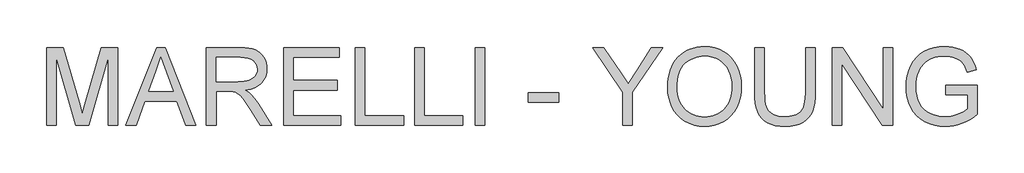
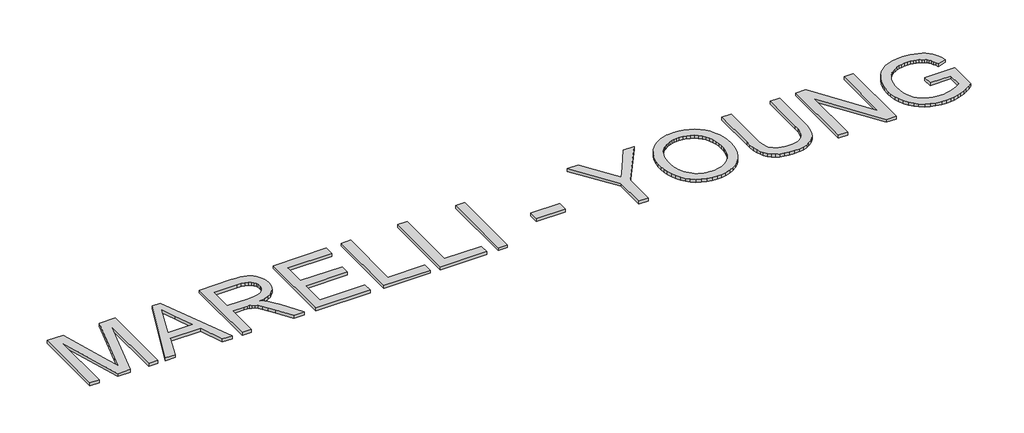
# One storey, part 26 of 26: 1 proxy.
"""IFC4 building model written with IfcOpenShell, lengths in millimetres."""

from ifc_helpers import new_model, si_unit, origin, origin_with_axes, place, context, project, spatial, polyline, outline, extrude, element, save

model = new_model("IFC4")

# Units and contexts
model_context = context("Model", 3, world=origin())
ifc_project = project(units=[si_unit("LENGTHUNIT", "METRE", prefix="MILLI")], contexts=[model_context])

# Site, building, storey
site = spatial("IfcSite", under=ifc_project)
building = spatial("IfcBuilding", under=site)
storey = spatial("IfcBuildingStorey", under=building, Name="Marelli - Linha YOUNG - Planta Baixa", Elevation=0.0)

# Proxy
placement = place(None, origin())
element("IfcBuildingElementProxy", 1, Name="1200mm Arial", ObjectType="1200mm Arial", at=placement, inside=storey, context=model_context, shape_type="SweptSolid", body=[
    extrude(outline(polyline([(1169.0588838, 33269.4336799), (1169.0588838, 34474.9094017), (1428.342114, 34474.9094017), (1674.9702036, 33625.2491457), (1724.7078493, 33447.7828712), (1778.5657734, 33639.9644255), (2021.0735847, 34474.9094017), (2280.3568149, 34474.9094017), (2280.3568149, 33269.4336799), (2129.6723496, 33269.4336799), (2129.6723496, 34324.2249365), (1826.8318912, 33269.4336799), (1622.5838075, 33269.4336799), (1319.743349, 34324.2249365), (1319.743349, 33269.4336799), (1169.0588838, 33269.4336799)])), origin_with_axes(), (0.0, 0.0, 1.0), 50.0),
    extrude(outline(polyline([(2403.6708596, 33269.4336799), (2884.8605093, 34474.9094017), (3013.1777492, 34474.9094017), (3494.3673989, 33269.4336799), (3335.1480714, 33269.4336799), (3197.1187468, 33646.144843), (2700.6252061, 33646.144843), (2562.8901872, 33269.4336799), (2403.6708596, 33269.4336799)]), holes=[polyline([(2755.9546582, 33796.8293082), (3142.0836004, 33796.8293082), (3033.4848354, 34093.1950435), (2949.0191293, 34324.2249365), (2873.9712023, 34119.093936), (2755.9546582, 33796.8293082)])]), origin_with_axes(), (0.0, 0.0, 1.0), 50.0),
    extrude(outline(polyline([(3655.35256, 33269.4336799), (3655.35256, 34474.9094017), (4174.8019372, 34474.9094017), (4249.3624206, 34472.8768537), (4314.4131544, 34466.7792096), (4369.9541386, 34456.6164695), (4415.9853733, 34442.3886334), (4455.1831998, 34423.0012522), (4490.2239599, 34397.3598771), (4521.1076534, 34365.4645082), (4547.8342803, 34327.3151453), (4569.4013623, 34284.9627306), (4584.8064208, 34240.4582062), (4594.049456, 34193.8015722), (4597.1304677, 34144.9928285), (4592.026105, 34083.0782887), (4576.7130169, 34026.2405204), (4551.1912035, 33974.4795237), (4515.4606648, 33927.7952985), (4493.6521602, 33906.7294558), (4469.0615481, 33887.6777669), (4411.5340011, 33855.616851), (4342.8780238, 33831.6125509), (4263.0936161, 33815.6648664), (4312.7576854, 33783.2176744), (4348.7365445, 33751.2119408), (4410.4671433, 33678.0034238), (4470.8733669, 33596.1128916), (4671.8840891, 33269.4336799), (4496.7722594, 33269.4336799), (4339.9073767, 33519.2991311), (4277.1467083, 33614.6541442), (4226.5997221, 33684.6988761), (4184.4772337, 33732.9282057), (4146.9900584, 33762.8370119), (4111.4894458, 33780.384983), (4075.3266457, 33791.5318075), (4040.0835506, 33795.504933), (3987.9178837, 33796.8293082), (3806.0370253, 33796.8293082), (3806.0370253, 33269.4336799), (3655.35256, 33269.4336799)]), holes=[polyline([(3806.0370253, 33947.5137734), (4143.3112384, 33947.5137734), (4240.1745678, 33952.8480624), (4280.4668433, 33959.5159235), (4315.3328594, 33968.8509292), (4345.5543653, 33981.1197937), (4371.9131102, 33996.5892316), (4394.4090942, 34015.2592429), (4413.0423173, 34037.1298275), (4427.6564296, 34061.1249306), (4438.0950812, 34086.1684974), (4444.3582721, 34112.2605279), (4446.4460025, 34139.4010221), (4442.4636799, 34177.9366611), (4430.5167121, 34212.9038448), (4410.6050991, 34244.3025731), (4382.7288409, 34272.132846), (4346.244144, 34294.9231356), (4300.507215, 34311.2019139), (4245.5180537, 34320.9691808), (4181.2766603, 34324.2249365), (3806.0370253, 34324.2249365), (3806.0370253, 33947.5137734)])]), origin_with_axes(), (0.0, 0.0, 1.0), 50.0),
    extrude(outline(polyline([(4860.8282818, 33269.4336799), (4860.8282818, 34474.9094017), (5727.2639569, 34474.9094017), (5727.2639569, 34324.2249365), (5011.512747, 34324.2249365), (5011.512747, 33966.3493316), (5689.5928406, 33966.3493316), (5689.5928406, 33815.6648664), (5011.512747, 33815.6648664), (5011.512747, 33420.1181452), (5746.099515, 33420.1181452), (5746.099515, 33269.4336799), (4860.8282818, 33269.4336799)])), origin_with_axes(), (0.0, 0.0, 1.0), 50.0),
    extrude(outline(polyline([(5972.1262129, 33269.4336799), (5972.1262129, 34474.9094017), (6122.8106781, 34474.9094017), (6122.8106781, 33420.1181452), (6725.548539, 33420.1181452), (6725.548539, 33269.4336799), (5972.1262129, 33269.4336799)])), origin_with_axes(), (0.0, 0.0, 1.0), 50.0),
    extrude(outline(polyline([(6895.0685624, 33269.4336799), (6895.0685624, 34474.9094017), (7045.7530276, 34474.9094017), (7045.7530276, 33420.1181452), (7648.4908885, 33420.1181452), (7648.4908885, 33269.4336799), (6895.0685624, 33269.4336799)])), origin_with_axes(), (0.0, 0.0, 1.0), 50.0),
    extrude(outline(polyline([(7836.84647, 33269.4336799), (7836.84647, 34474.9094017), (7987.5309352, 34474.9094017), (7987.5309352, 33269.4336799), (7836.84647, 33269.4336799)])), origin_with_axes(), (0.0, 0.0, 1.0), 50.0),
    extrude(outline(polyline([(8665.6110287, 33627.3092848), (8665.6110287, 33777.9937501), (9136.4999826, 33777.9937501), (9136.4999826, 33627.3092848), (8665.6110287, 33627.3092848)])), origin_with_axes(), (0.0, 0.0, 1.0), 50.0),
    extrude(outline(polyline([(10134.7845647, 33269.4336799), (10134.7845647, 33780.0538892), (9663.8956109, 34474.9094017), (9841.6561909, 34474.9094017), (10092.99317, 34103.790045), (10221.6047155, 33914.5515467), (10350.5105666, 34117.3281024), (10578.5974037, 34474.9094017), (10756.3579837, 34474.9094017), (10285.4690299, 33780.0538892), (10285.4690299, 33269.4336799), (10134.7845647, 33269.4336799)])), origin_with_axes(), (0.0, 0.0, 1.0), 50.0),
    extrude(outline(polyline([(10831.7002163, 33856.2790386), (10834.211011, 33929.0047106), (10841.7433948, 33997.6744835), (10854.2973679, 34062.2883574), (10871.8729302, 34122.8463323), (10894.4700818, 34179.3484083), (10922.0888226, 34231.7945852), (10954.7291526, 34280.1848632), (10992.3910718, 34324.5192421), (11034.0215181, 34364.1815197), (11078.5674292, 34398.5554936), (11126.0288051, 34427.6411639), (11176.4056458, 34451.4385304), (11229.6979513, 34469.9475933), (11285.9057217, 34483.1683525), (11345.0289568, 34491.100808), (11407.0676568, 34493.7449599), (11488.1672426, 34488.7785529), (11565.1833383, 34473.8793321), (11638.1159439, 34449.0472975), (11706.9650593, 34414.2824489), (11769.799304, 34370.6332502), (11824.6872977, 34319.148165), (11871.6290403, 34259.8271932), (11910.6245318, 34192.670335), (11941.269102, 34119.2043006), (11963.1580807, 34040.9558002), (11976.2914679, 33957.9248339), (11980.6692637, 33870.1114017), (11976.0615417, 33781.1391411), (11962.2383757, 33696.9861347), (11939.1997658, 33617.6523825), (11906.9457118, 33543.1378843), (11866.2395691, 33475.410809), (11817.8446926, 33416.4393252), (11761.7610824, 33366.2234329), (11697.9887386, 33324.763132), (11629.0384556, 33292.31594), (11557.4210282, 33269.1393743), (11483.1364563, 33255.2334349), (11406.18474, 33250.5981218), (11323.6688085, 33255.7208786), (11245.6410373, 33271.0891489), (11172.1014265, 33296.7029328), (11103.049976, 33332.5622303), (11040.2893076, 33377.2782868), (10985.6220431, 33429.4623478), (10939.0481825, 33489.1144134), (10900.5677258, 33556.2344834), (10870.4381904, 33628.1278223), (10848.9170937, 33702.0996945), (10836.0044357, 33778.1500999), (10831.7002163, 33856.2790386)]), holes=[polyline([(10982.3846816, 33854.8075107), (10984.2677775, 33803.4557827), (10989.9170654, 33754.9091549), (10999.3325452, 33709.1676273), (11012.514217, 33666.2311999), (11029.4620806, 33626.0998728), (11050.1761362, 33588.7736458), (11074.6563837, 33554.2525191), (11102.9028232, 33522.5364926), (11133.991151, 33494.1176085), (11166.9970638, 33469.4879089), (11201.9205614, 33448.6473939), (11238.761644, 33431.5960634), (11277.5203115, 33418.3339175), (11318.1965638, 33408.8609561), (11360.7904011, 33403.1771793), (11405.3018232, 33401.282587), (11450.6271843, 33403.1955734), (11493.8970047, 33408.9345325), (11535.1112845, 33418.4994644), (11574.2700236, 33431.890369), (11611.3732221, 33449.1072464), (11646.4208799, 33470.1500965), (11679.4129971, 33495.0189194), (11710.3495736, 33523.713715), (11738.3890794, 33555.9263822), (11762.6899845, 33591.3488198), (11783.2522888, 33629.9810278), (11800.0759922, 33671.8230063), (11813.161095, 33716.8747551), (11822.5075969, 33765.1362743), (11828.1154981, 33816.607564), (11829.9847985, 33871.288624), (11826.7842251, 33940.248104), (11817.182505, 34004.6826355), (11801.1796382, 34064.5922184), (11778.7756247, 34119.9768528), (11750.2187848, 34170.1099717), (11715.7574389, 34214.2650081), (11675.391587, 34252.4419622), (11629.1212291, 34284.6408338), (11578.3811049, 34310.1994354), (11524.6059543, 34328.4555794), (11467.7957772, 34339.4092659), (11407.9505736, 34343.0604947), (11365.152102, 34341.3015589), (11323.8711436, 34336.0247515), (11284.1076984, 34327.2300726), (11245.8617665, 34314.917522), (11209.1333478, 34299.0870999), (11173.9224424, 34279.7388062), (11140.2290501, 34256.872641), (11108.0531711, 34230.4886041), (11078.5996189, 34199.993486), (11053.0732069, 34164.7940768), (11031.4739353, 34124.8903767), (11013.801804, 34080.2823855), (11000.0568129, 34030.9701033), (10990.2389622, 33976.9535301), (10984.3482517, 33918.2326659), (10982.3846816, 33854.8075107)])]), origin_with_axes(), (0.0, 0.0, 1.0), 50.0),
    extrude(outline(polyline([(12978.9538458, 34474.9094017), (13129.638311, 34474.9094017), (13129.638311, 33779.465278), (13127.0815311, 33693.3533), (13119.4111915, 33616.6039188), (13106.6272922, 33549.2171343), (13088.7298331, 33491.1929466), (13064.17371, 33440.3332608), (13031.4138183, 33394.4399819), (12990.4501581, 33353.5131099), (12941.2827295, 33317.5526449), (12883.85635, 33288.260041), (12818.1158375, 33267.3367526), (12744.0611919, 33254.7827795), (12661.6924131, 33250.5981218), (12581.3561825, 33254.2401535), (12508.6902914, 33265.1662488), (12443.6947399, 33283.3764075), (12386.369528, 33308.8706298), (12336.7054586, 33341.2718365), (12294.6933348, 33380.2029487), (12260.3331564, 33425.6639662), (12233.6249236, 33477.6548892), (12213.602946, 33537.9599453), (12199.3015334, 33608.3633621), (12190.7206859, 33688.8651397), (12187.8604034, 33779.465278), (12187.8604034, 34474.9094017), (12338.5448686, 34474.9094017), (12338.5448686, 33784.7627788), (12340.4026727, 33711.9129467), (12345.9760849, 33649.3454164), (12355.2651053, 33597.0601878), (12368.2697338, 33555.057261), (12385.7993109, 33520.3016095), (12408.6631769, 33489.7582068), (12436.8613318, 33463.427053), (12470.3937757, 33441.3081481), (12508.616715, 33423.7969651), (12550.8863562, 33411.2889773), (12597.2026994, 33403.7841846), (12647.5657445, 33401.282587), (12730.6151049, 33406.2305998), (12800.8253837, 33421.0746383), (12831.1158675, 33432.2076672), (12858.1965809, 33445.8147025), (12882.0675238, 33461.8957442), (12902.7286964, 33480.4507924), (12920.5939658, 33502.5237121), (12936.0771993, 33529.1583685), (12949.1783968, 33560.3547617), (12959.8975584, 33596.1128916), (12974.189774, 33681.3143617), (12978.9538458, 33784.7627788), (12978.9538458, 34474.9094017)])), origin_with_axes(), (0.0, 0.0, 1.0), 50.0),
    extrude(outline(polyline([(13393.3361252, 33269.4336799), (13393.3361252, 34474.9094017), (13554.6155918, 34474.9094017), (14184.4295676, 33519.8877422), (14184.4295676, 34474.9094017), (14335.1140328, 34474.9094017), (14335.1140328, 33269.4336799), (14173.8345661, 33269.4336799), (13544.0205904, 34224.749645), (13544.0205904, 33269.4336799), (13393.3361252, 33269.4336799)])), origin_with_axes(), (0.0, 0.0, 1.0), 50.0),
    extrude(outline(polyline([(15163.8785915, 33740.3226338), (15163.8785915, 33891.007099), (15653.6031035, 33891.007099), (15653.6031035, 33440.4252313), (15594.5672403, 33396.113845), (15534.5932781, 33357.6517824), (15473.6812167, 33325.0390435), (15411.8310563, 33298.2756284), (15349.1163732, 33277.4167192), (15285.6107437, 33262.5174984), (15221.314168, 33253.5779659), (15156.226646, 33250.5981218), (15069.6732096, 33255.3346025), (14987.1848693, 33269.5440445), (14908.7616249, 33293.226448), (14834.4034767, 33326.3818128), (14766.5108545, 33368.5134983), (14707.4841883, 33419.1248638), (14657.3234783, 33478.2159092), (14616.0287243, 33545.7866347), (14583.7746704, 33619.6757334), (14560.7360604, 33697.7218987), (14546.9128945, 33779.9251305), (14542.3051725, 33866.2854289), (14546.8945004, 33952.6549243), (14560.6624841, 34036.0629697), (14583.6091235, 34116.509565), (14615.7344187, 34193.9947102), (14656.4681526, 34265.1154969), (14705.2401082, 34326.4690167), (14762.0502853, 34378.0552694), (14826.898684, 34419.8742552), (14898.3781556, 34452.1926885), (14975.0815516, 34475.2772837), (15057.0088719, 34489.1280408), (15144.1601166, 34493.7449599), (15207.7853077, 34491.0686184), (15268.2835018, 34483.0395938), (15325.6546989, 34469.6578862), (15379.8988991, 34450.9234956), (15429.7377124, 34427.4158361), (15473.8927489, 34399.7143219), (15512.3640085, 34367.8189529), (15545.1514913, 34331.7297292), (15573.303661, 34290.6281133), (15597.8689813, 34243.6955678), (15618.847452, 34190.9320926), (15636.2390733, 34132.3376878), (15497.326832, 34093.1950435), (15482.6575374, 34135.3451231), (15466.3143798, 34172.6207663), (15448.2973591, 34205.021973), (15428.6064753, 34232.5487433), (15405.871368, 34256.3874966), (15378.7216767, 34277.7246523), (15347.1574015, 34296.5602105), (15311.1785424, 34312.8941711), (15271.9531247, 34326.0919376), (15230.6491737, 34335.5189138), (15187.2666894, 34341.1750994), (15141.8056718, 34343.0604947), (15087.9201566, 34341.0279466), (15037.8054318, 34334.9303026), (14991.4614975, 34324.7675624), (14948.8883536, 34310.5397263), (14910.1687736, 34293.0101492), (14875.3855309, 34272.9421864), (14844.5386256, 34250.3358378), (14817.6280577, 34225.1911034), (14773.2982773, 34169.7512867), (14740.0785331, 34109.0875457), (14719.4771414, 34053.3534235), (14704.7618616, 33995.3384328), (14695.9326937, 33935.0425738), (14692.9896377, 33872.4658464), (14696.5305019, 33797.2247814), (14707.1530945, 33728.3664689), (14724.8574155, 33665.8909091), (14749.643465, 33609.7981019), (14781.1893461, 33560.2995794), (14819.1731621, 33517.6068739), (14863.594913, 33481.7199852), (14914.4545988, 33452.6389135), (14969.3701836, 33430.1705207), (15025.9596316, 33414.1216686), (15084.2229425, 33404.4923574), (15144.1601166, 33401.282587), (15196.6660744, 33403.7014111), (15248.5282386, 33410.9578835), (15299.7466094, 33423.0520041), (15350.3211867, 33439.9837729), (15438.7232301, 33479.9725458), (15473.8467636, 33500.9326224), (15502.9186383, 33522.5364926), (15502.9186383, 33740.3226338), (15163.8785915, 33740.3226338)])), origin_with_axes(), (0.0, 0.0, 1.0), 50.0),
])

save(model, "model.ifc")
